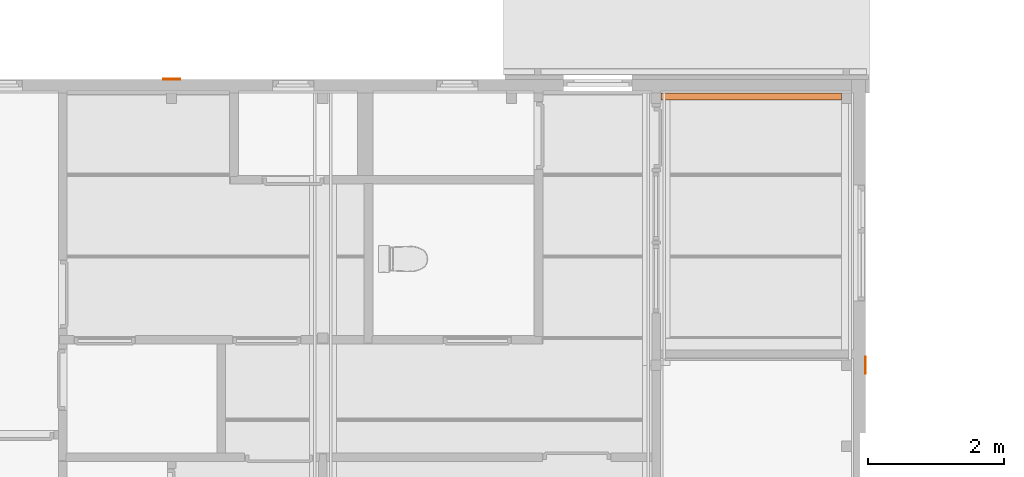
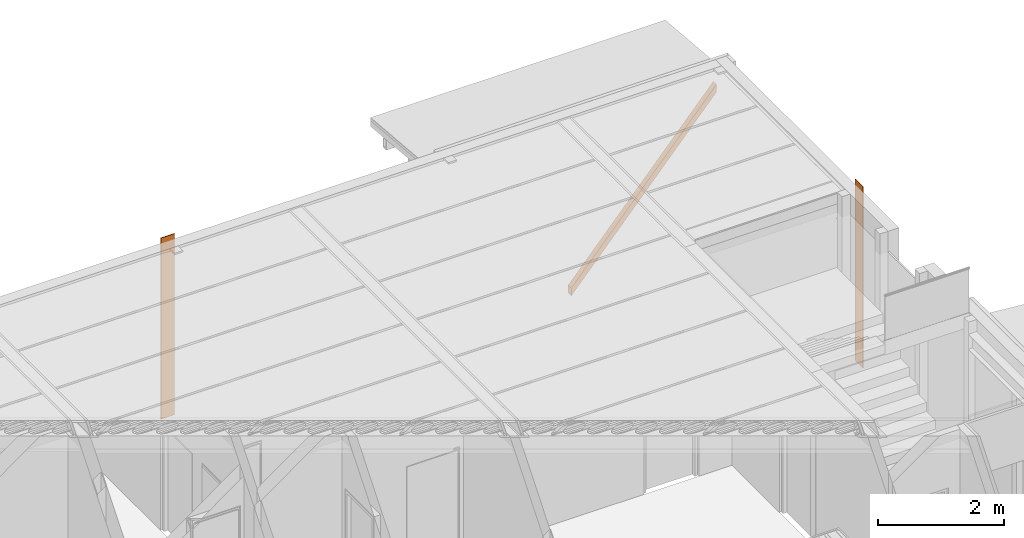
# One storey, part 45 of 45: 3 proxies.
"""IFC2X3 building model written with IfcOpenShell, lengths in millimetres."""

from ifc_helpers import new_model, entity, si_unit, converted_unit, frame, origin, place, context, subcontext, project, spatial, faceted_brep, material, element, save


model = new_model("IFC2X3")

# Units and contexts
model_context = context("Model", 3, precision=1e-05, world=origin())
plan_context = context("Plan", 3, precision=1e-05, world=origin())
body_context = subcontext(model_context, "Body", "Model", "MODEL_VIEW")
ifc_project = project(units=[si_unit("LENGTHUNIT", "METRE", prefix="MILLI"), converted_unit("PLANEANGLEUNIT", "DEGREE", entity("IfcPlaneAngleMeasure", 0.0174532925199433), si_unit("PLANEANGLEUNIT", "RADIAN"), dimensions=[0, 0, 0, 0, 0, 0, 0]), si_unit("AREAUNIT", "SQUARE_METRE"), si_unit("VOLUMEUNIT", "CUBIC_METRE")], contexts=[model_context, plan_context])

# Building, storey
building_placement = place(None, origin())
building = spatial("IfcBuilding", under=ifc_project, at=building_placement, Name="HEKF Administrasjonbygg", CompositionType="ELEMENT")
storey_placement = place(building_placement, frame((0.0, 0.0, 6500.0), z_axis=(0.0, 0.0, 1.0), x_axis=(1.0, 0.0, 0.0)))
storey = spatial("IfcBuildingStorey", under=building, at=storey_placement, Name="Plan 1", CompositionType="ELEMENT", Elevation=6500.0)

# Proxies
ifc_material_1 = material(Name="HUP100x200")
proxy_1_placement = place(storey_placement, frame((27198.76862262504, -100.0099999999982, -0.01000000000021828), z_axis=(0.0, 0.0, 1.0), x_axis=(1.0, 0.0, 0.0)))
element("IfcBuildingElementProxy", 1, at=proxy_1_placement, inside=storey, material=ifc_material_1, context=body_context, shape_type="Brep", body=[
    faceted_brep([(0.00999999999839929, 100.01, 151.2143820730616), (0.01000000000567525, 100.01, 0.01000000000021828), (2651.231377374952, 100.0100000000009, 3006.869691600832), (2651.231377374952, 100.0100000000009, 3158.074073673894), (0.01000000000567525, 0.009999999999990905, 0.01000000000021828), (0.00999999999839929, 0.009999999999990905, 151.2143820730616), (2651.231377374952, 0.0100000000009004, 3158.074073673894), (2651.231377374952, 0.0100000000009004, 3006.869691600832), (0.01000000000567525, 100.01, 0.01000000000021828), (0.00999999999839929, 100.01, 151.2143820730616), (0.00999999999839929, 0.009999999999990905, 151.2143820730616), (0.01000000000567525, 0.009999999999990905, 0.01000000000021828), (2651.231377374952, 100.0100000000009, 3006.869691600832), (0.01000000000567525, 100.01, 0.01000000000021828), (0.01000000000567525, 0.009999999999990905, 0.01000000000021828), (2651.231377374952, 0.0100000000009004, 3006.869691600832), (2651.231377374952, 100.0100000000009, 3158.074073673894), (2651.231377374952, 100.0100000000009, 3006.869691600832), (2651.231377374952, 0.0100000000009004, 3006.869691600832), (2651.231377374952, 0.0100000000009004, 3158.074073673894), (0.00999999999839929, 100.01, 151.2143820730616), (2651.231377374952, 100.0100000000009, 3158.074073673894), (2651.231377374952, 0.0100000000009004, 3158.074073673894), (0.00999999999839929, 0.009999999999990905, 151.2143820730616)], [[[0, 1, 2, 3]], [[4, 5, 6, 7]], [[8, 9, 10, 11]], [[12, 13, 14, 15]], [[16, 17, 18, 19]], [[20, 21, 22, 23]]], orient=[[False], [False], [False], [False], [False], [False]]),
])
ifc_material_2 = material(Name="T24")
proxy_2_placement = place(storey_placement, frame((30199.99, -4125.01, 0.9899999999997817), z_axis=(0.0, 0.0, 1.0), x_axis=(1.0, 0.0, 0.0)))
element("IfcBuildingElementProxy", 2, at=proxy_2_placement, inside=storey, material=ifc_material_2, context=body_context, shape_type="Brep", body=[
    faceted_brep([(0.00999999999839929, 250.0100000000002, 0.01000000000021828), (10.0099999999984, 250.0100000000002, 0.01000000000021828), (10.0099999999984, 250.0100000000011, 3499.01), (0.00999999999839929, 250.0100000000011, 3499.01), (0.00999999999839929, 0.01000000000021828, 0.01000000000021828), (10.0099999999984, 0.01000000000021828, 0.01000000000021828), (10.0099999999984, 250.0100000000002, 0.01000000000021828), (0.00999999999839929, 250.0100000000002, 0.01000000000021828), (0.00999999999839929, 0.01000000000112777, 3499.01), (10.0099999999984, 0.01000000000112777, 3499.01), (10.0099999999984, 0.01000000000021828, 0.01000000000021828), (0.00999999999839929, 0.01000000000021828, 0.01000000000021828), (0.00999999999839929, 250.0100000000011, 3499.01), (10.0099999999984, 250.0100000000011, 3499.01), (10.0099999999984, 0.01000000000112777, 3499.01), (0.00999999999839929, 0.01000000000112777, 3499.01), (10.0099999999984, 250.0100000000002, 0.01000000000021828), (10.0099999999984, 0.01000000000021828, 0.01000000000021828), (10.0099999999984, 0.01000000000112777, 3499.01), (10.0099999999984, 250.0100000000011, 3499.01), (0.00999999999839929, 0.01000000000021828, 0.01000000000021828), (0.00999999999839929, 250.0100000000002, 0.01000000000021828), (0.00999999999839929, 250.0100000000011, 3499.01), (0.00999999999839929, 0.01000000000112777, 3499.01)], [[[0, 1, 2, 3]], [[4, 5, 6, 7]], [[8, 9, 10, 11]], [[12, 13, 14, 15]], [[16, 17, 18, 19]], [[20, 21, 22, 23]]], orient=[[False], [False], [False], [False], [False], [False]]),
])
ifc_material_3 = material(Name="T24")
proxy_3_placement = place(storey_placement, frame((19874.99, 199.9899999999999, 0.9899999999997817), z_axis=(0.0, 0.0, 1.0), x_axis=(1.0, 0.0, 0.0)))
element("IfcBuildingElementProxy", 3, at=proxy_3_placement, inside=storey, material=ifc_material_3, context=body_context, shape_type="Brep", body=[
    faceted_brep([(0.00999999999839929, 0.009999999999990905, 0.01000000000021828), (0.00999999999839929, 10.00999999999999, 0.01000000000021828), (0.00999999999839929, 10.01000000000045, 3499.01), (0.00999999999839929, 0.01000000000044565, 3499.01), (250.0099999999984, 0.009999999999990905, 0.01000000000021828), (250.0099999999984, 10.00999999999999, 0.01000000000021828), (0.00999999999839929, 10.00999999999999, 0.01000000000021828), (0.00999999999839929, 0.009999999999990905, 0.01000000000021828), (250.0099999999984, 0.01000000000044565, 3499.01), (250.0099999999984, 10.01000000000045, 3499.01), (250.0099999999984, 10.00999999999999, 0.01000000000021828), (250.0099999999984, 0.009999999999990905, 0.01000000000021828), (0.00999999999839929, 0.01000000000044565, 3499.01), (0.00999999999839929, 10.01000000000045, 3499.01), (250.0099999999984, 10.01000000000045, 3499.01), (250.0099999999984, 0.01000000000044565, 3499.01), (0.00999999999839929, 10.00999999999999, 0.01000000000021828), (250.0099999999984, 10.00999999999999, 0.01000000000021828), (250.0099999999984, 10.01000000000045, 3499.01), (0.00999999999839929, 10.01000000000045, 3499.01), (250.0099999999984, 0.009999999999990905, 0.01000000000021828), (0.00999999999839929, 0.009999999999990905, 0.01000000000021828), (0.00999999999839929, 0.01000000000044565, 3499.01), (250.0099999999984, 0.01000000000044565, 3499.01)], [[[0, 1, 2, 3]], [[4, 5, 6, 7]], [[8, 9, 10, 11]], [[12, 13, 14, 15]], [[16, 17, 18, 19]], [[20, 21, 22, 23]]], orient=[[False], [False], [False], [False], [False], [False]]),
])

save(model, "model.ifc")
